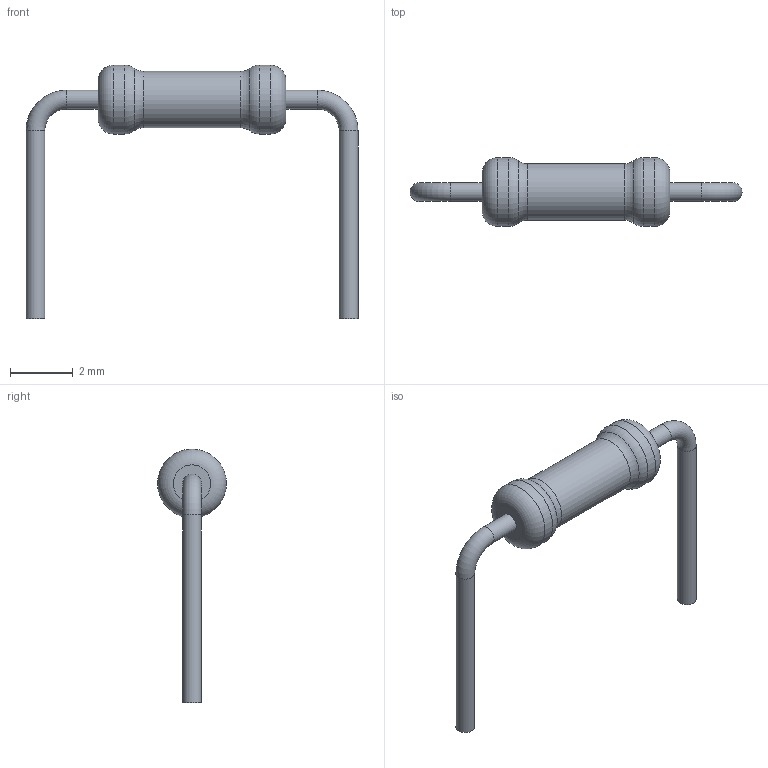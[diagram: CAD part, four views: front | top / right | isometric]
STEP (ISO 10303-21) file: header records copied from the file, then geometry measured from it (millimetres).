
FILE_DESCRIPTION(('STEP AP203'), '1');
FILE_NAME('C2-33苂-0.125', '', ('UNSPECIFIED'), ('UNSPECIFIED'), 'ASCON STEP Converter 1.6', 'ASCON Math Kernel', '');
FILE_SCHEMA(('CONFIG_CONTROL_DESIGN'));
Length unit declared in the file: millimetre
Bounding box: 10.6 x 2.2 x 8.1 mm (x, y, z)
Volume: 22.3 mm3; surface area: 74.1 mm2
Topology: 1 solids, 1 shells, 19 faces, 33 edges, 18 vertices
Faces by surface type: torus 8, cylinder 7, plane 4
Full cylindrical faces by diameter (mm): 0.6 x4, 1.8 x1, 2.2 x2
Entity records: 570 total; most frequent: DIRECTION 76, CARTESIAN_POINT 56, AXIS2_PLACEMENT_3D 38, EDGE_LOOP 36, ORIENTED_EDGE 36, FACE_OUTER_BOUND 30, COLOUR_RGB 20, FILL_AREA_STYLE_COLOUR 20
